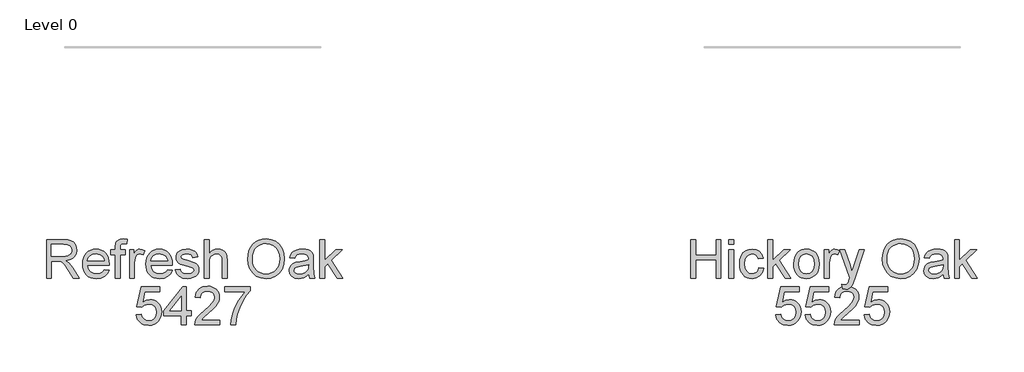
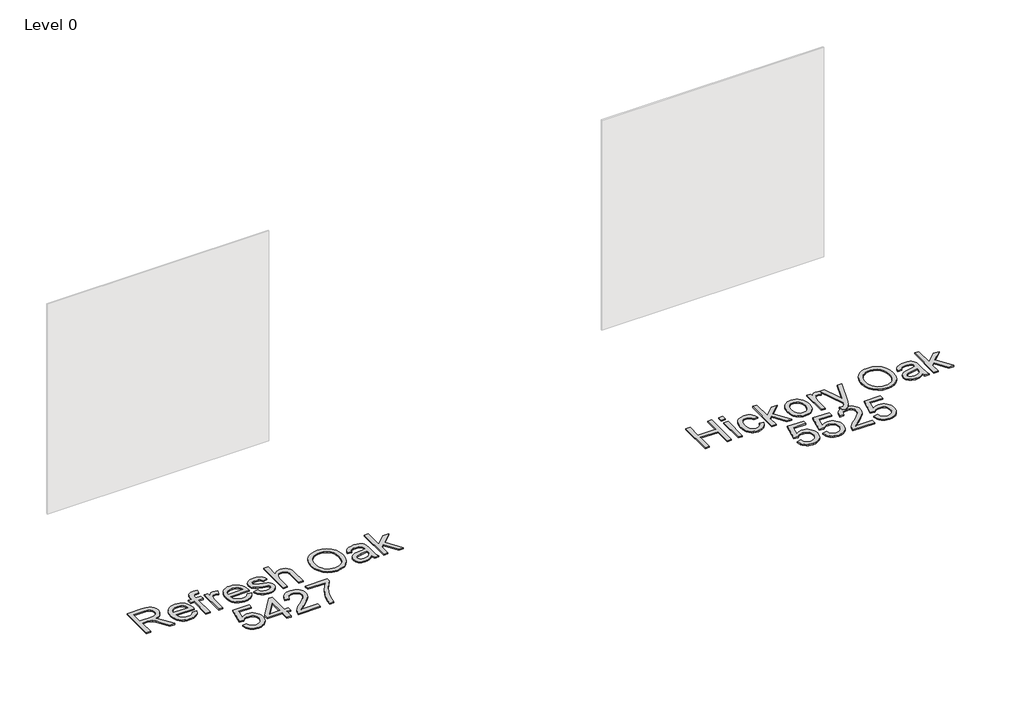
# One storey, part 9 of 16: 2 proxies.
"""IFC4 building model written with IfcOpenShell, lengths in millimetres."""

from ifc_helpers import new_model, si_unit, origin, origin_with_axes, place, context, project, spatial, polyline, outline, extrude, element, save

model = new_model("IFC4")

# Units and contexts
model_context = context("Model", 3, world=origin())
ifc_project = project(units=[si_unit("LENGTHUNIT", "METRE", prefix="MILLI")], contexts=[model_context])

# Site, building, storey
site = spatial("IfcSite", under=ifc_project)
building = spatial("IfcBuilding", under=site)
storey = spatial("IfcBuildingStorey", under=building, Name="Level 0", Elevation=0.0)

# Proxies
placement = place(None, origin())
element("IfcBuildingElementProxy", 1, Name="300mm Arial", ObjectType="300mm Arial", at=placement, inside=storey, context=model_context, shape_type="SweptSolid", body=[
    extrude(outline(polyline([(-594.9182141, -27022.860494), (-594.9182141, -26721.4915635), (-465.0558698, -26721.4915635), (-430.1530655, -26723.5241116), (-404.7600108, -26729.6217556), (-386.2003641, -26740.8789447), (-371.797784, -26758.3901276), (-362.5547489, -26780.1043624), (-359.4737372, -26803.9707069), (-364.5780999, -26833.6587839), (-379.8911879, -26858.2700893), (-391.4909671, -26868.2994722), (-405.8728538, -26876.3147012), (-442.9829501, -26886.3026974), (-421.572218, -26902.4159288), (-391.0380124, -26941.1906911), (-340.7853318, -27022.860494), (-384.5632893, -27022.860494), (-423.7795099, -26960.3941312), (-452.1064236, -26919.0441949), (-472.0088395, -26899.509661), (-489.9246927, -26892.3359621), (-511.7768832, -26891.0115869), (-557.2470978, -26891.0115869), (-557.2470978, -27022.860494), (-594.9182141, -27022.860494)]), holes=[polyline([(-557.2470978, -26853.3404706), (-472.9285445, -26853.3404706), (-448.7127122, -26852.0068984), (-429.9231393, -26848.0061817), (-415.7780766, -26841.0716061), (-405.4957748, -26830.9364571), (-399.2325838, -26818.6767896), (-397.1448535, -26805.3686584), (-401.1271761, -26786.9929528), (-413.0741439, -26772.1857025), (-433.6295504, -26762.4184355), (-463.437189, -26759.1626798), (-557.2470978, -26759.1626798), (-557.2470978, -26853.3404706)])]), origin_with_axes(), (0.0, 0.0, 1.0), 10.0),
    extrude(outline(polyline([(-143.3062768, -26956.9360404), (-106.3709245, -26961.64493), (-119.6790557, -26989.4752029), (-140.9150439, -27010.2789297), (-169.6006424, -27023.2467701), (-205.2576048, -27027.5693835), (-228.6319071, -27025.7046817), (-249.4586265, -27020.1105761), (-267.7377632, -27010.7870668), (-283.469317, -26997.7341537), (-296.1198591, -26981.3151204), (-305.1559606, -26961.8932503), (-310.5776215, -26939.4685435), (-312.3848418, -26914.0409998), (-310.5592274, -26887.7512327), (-305.0823842, -26864.5792656), (-295.9543122, -26844.5250983), (-283.1750114, -26827.5887309), (-267.4848443, -26814.133447), (-249.6241734, -26804.5225298), (-229.5929988, -26798.7559796), (-207.3913204, -26796.8337961), (-185.9047126, -26798.751381), (-166.4736455, -26804.5041357), (-149.098119, -26814.0920602), (-133.7781332, -26827.5151545), (-121.2724446, -26844.4147337), (-112.3398099, -26864.4321128), (-106.9802291, -26887.5672917), (-105.1937021, -26913.8202706), (-105.4144313, -26923.9738137), (-274.7137255, -26923.9738137), (-268.1930171, -26952.1719686), (-253.045476, -26972.902119), (-231.1840884, -26985.6492302), (-204.5218408, -26989.8982672), (-184.4722721, -26987.9300985), (-167.5864885, -26982.0255925), (-153.8644901, -26971.8168672), (-143.3062768, -26956.9360404)]), holes=[polyline([(-274.7137255, -26886.3026974), (-142.8648184, -26886.3026974), (-147.9599841, -26866.4002814), (-157.9479802, -26852.1632482), (-179.9105353, -26838.9194964), (-207.5384732, -26834.5049125), (-232.9315279, -26838.0273826), (-253.9283928, -26848.5947929), (-268.5241109, -26865.0667092), (-274.7137255, -26886.3026974)])]), origin_with_axes(), (0.0, 0.0, 1.0), 10.0),
    extrude(outline(polyline([(-58.1048067, -27022.860494), (-58.1048067, -26839.213802), (-91.0670335, -26839.213802), (-91.0670335, -26801.5426857), (-58.1048067, -26801.5426857), (-58.1048067, -26779.2490368), (-54.1316812, -26747.8319144), (-46.5533121, -26735.3055325), (-34.8546646, -26725.3911127), (-18.4839159, -26718.9347837), (3.1107573, -26716.782674), (37.4709356, -26720.9029523), (31.9527057, -26756.2196239), (10.247668, -26754.4537903), (-4.0721387, -26756.0172888), (-13.4807207, -26760.7077842), (-18.695448, -26769.6657108), (-20.4336904, -26784.0315027), (-20.4336904, -26801.5426857), (21.9463154, -26801.5426857), (21.9463154, -26839.213802), (-20.4336904, -26839.213802), (-20.4336904, -27022.860494), (-58.1048067, -27022.860494)])), origin_with_axes(), (0.0, 0.0, 1.0), 10.0),
    extrude(outline(polyline([(54.9085422, -27022.860494), (54.9085422, -26801.5426857), (87.8707689, -26801.5426857), (87.8707689, -26834.2841833), (100.047663, -26815.3014723), (111.2680638, -26804.1178596), (122.5252529, -26798.654812), (134.8125115, -26796.8337961), (153.5744933, -26799.7400639), (172.6307806, -26808.4588672), (160.0492164, -26842.2304343), (146.8054646, -26836.4362929), (133.5617127, -26834.5049125), (122.3137207, -26836.3627165), (112.2613452, -26841.9361288), (104.1403502, -26850.8020848), (98.6864996, -26862.5375205), (94.1063688, -26883.5803706), (92.5796585, -26906.5362071), (92.5796585, -27022.860494), (54.9085422, -27022.860494)])), origin_with_axes(), (0.0, 0.0, 1.0), 10.0),
    extrude(outline(polyline([(351.1271247, -26956.9360404), (388.062477, -26961.64493), (374.7543458, -26989.4752029), (353.5183577, -27010.2789297), (324.8327591, -27023.2467701), (289.1757967, -27027.5693835), (265.8014944, -27025.7046817), (244.974775, -27020.1105761), (226.6956383, -27010.7870668), (210.9640845, -26997.7341537), (198.3135424, -26981.3151204), (189.2774409, -26961.8932503), (183.85578, -26939.4685435), (182.0485597, -26914.0409998), (183.8741741, -26887.7512327), (189.3510173, -26864.5792656), (198.4790893, -26844.5250983), (211.2583901, -26827.5887309), (226.9485572, -26814.133447), (244.8092281, -26804.5225298), (264.8404027, -26798.7559796), (287.0420811, -26796.8337961), (308.5286889, -26798.751381), (327.959756, -26804.5041357), (345.3352825, -26814.0920602), (360.6552684, -26827.5151545), (373.1609569, -26844.4147337), (382.0935916, -26864.4321128), (387.4531725, -26887.5672917), (389.2396994, -26913.8202706), (389.0189702, -26923.9738137), (219.719676, -26923.9738137), (226.2403844, -26952.1719686), (241.3879255, -26972.902119), (263.2493131, -26985.6492302), (289.9115607, -26989.8982672), (309.9611294, -26987.9300985), (326.846913, -26982.0255925), (340.5689114, -26971.8168672), (351.1271247, -26956.9360404)]), holes=[polyline([(219.719676, -26886.3026974), (351.5685831, -26886.3026974), (346.4734175, -26866.4002814), (336.4854213, -26852.1632482), (314.5228662, -26838.9194964), (286.8949283, -26834.5049125), (261.5018736, -26838.0273826), (240.5050087, -26848.5947929), (225.9092906, -26865.0667092), (219.719676, -26886.3026974)])]), origin_with_axes(), (0.0, 0.0, 1.0), 10.0),
    extrude(outline(polyline([(412.7841471, -26956.9360404), (450.4552634, -26952.2271509), (456.3965576, -26968.3403823), (467.89287, -26980.1861825), (485.0177768, -26987.470246), (507.8448546, -26989.8982672), (530.3960209, -26987.6725811), (546.2517349, -26980.9955229), (555.6327258, -26971.3202265), (558.7597228, -26960.0998256), (555.6143317, -26950.4981055), (546.1781585, -26943.1772538), (507.4033962, -26932.4350996), (450.6759926, -26914.0042116), (436.3193977, -26904.7427824), (425.9175343, -26892.4831149), (419.599161, -26878.0069584), (417.4930366, -26862.0960621), (419.1852938, -26847.5003439), (424.2620653, -26834.0266659), (432.2634987, -26822.2084568), (442.7297415, -26812.5791455), (466.6788594, -26801.4323211), (499.0892632, -26796.8337961), (523.6085981, -26798.6824032), (544.9273598, -26804.2282242), (562.0706607, -26812.9286334), (574.0636138, -26824.2410048), (582.0098649, -26839.0022698), (587.01306, -26858.0493601), (549.3419437, -26862.7582497), (544.5870689, -26850.9032524), (535.1784869, -26841.972917), (521.0242271, -26836.3719136), (502.0323191, -26834.5049125), (480.4008578, -26836.2891401), (465.9798836, -26841.6418232), (457.8680856, -26849.3673451), (455.1641529, -26858.2700893), (459.6523133, -26869.2329728), (473.7054055, -26877.5471059), (506.1525975, -26885.5669334), (561.4452613, -26903.2988455), (576.0501765, -26911.7785255), (587.1234246, -26923.3852025), (594.1039855, -26938.1556646), (596.4308391, -26956.1267001), (593.6993153, -26974.7047408), (585.5047438, -26992.1791356), (572.1598244, -27007.1795239), (553.9772568, -27018.3355454), (532.0147017, -27025.260924), (507.3298198, -27027.5693835), (469.3460038, -27023.1180114), (441.6260955, -27009.763895), (423.1216311, -26987.654187), (412.7841471, -26956.9360404)])), origin_with_axes(), (0.0, 0.0, 1.0), 10.0),
    extrude(outline(polyline([(638.8108449, -27022.860494), (638.8108449, -26721.4915635), (676.4819612, -26721.4915635), (676.4819612, -26832.2976205), (690.3189228, -26816.7821973), (705.8573385, -26805.6997522), (723.0972085, -26799.0502852), (742.0385328, -26796.8337961), (764.7920342, -26799.2526203), (784.3449622, -26806.5090926), (799.7408237, -26818.0329961), (810.0231255, -26833.2541137), (815.8172669, -26854.1682051), (817.7486474, -26882.7710302), (817.7486474, -27022.860494), (780.0775311, -27022.860494), (780.0775311, -26886.6705794), (777.0792928, -26863.0893435), (768.084578, -26846.9393239), (753.5900274, -26837.6135153), (734.0922817, -26834.5049125), (718.1721883, -26836.6018398), (703.2269823, -26842.8926219), (690.8477531, -26852.7702535), (682.6255905, -26865.6277292), (678.0178686, -26882.7158479), (676.4819612, -26905.2854083), (676.4819612, -27022.860494), (638.8108449, -27022.860494)])), origin_with_axes(), (0.0, 0.0, 1.0), 10.0),
    extrude(outline(polyline([(977.8508917, -26876.1491543), (980.3616863, -26840.8002931), (987.8940701, -26809.5073309), (1000.4480432, -26782.2702677), (1018.0236055, -26759.0891034), (1039.5676949, -26740.5800406), (1064.027249, -26727.3592814), (1091.402268, -26719.4268258), (1121.6927518, -26716.782674), (1161.2216722, -26721.7490809), (1196.6671024, -26736.6483017), (1226.097662, -26760.4318727), (1247.5819705, -26792.0513302), (1260.7153578, -26829.9799639), (1265.0931535, -26872.6910636), (1260.4854315, -26915.9723803), (1246.6622656, -26954.4344429), (1224.3870107, -26986.1090827), (1194.4230222, -27009.028131), (1159.2810946, -27022.9340704), (1121.4720226, -27027.5693835), (1081.3360969, -27022.4466267), (1045.6883316, -27007.0783564), (1016.3313484, -26982.853327), (995.067769, -26951.1602931), (982.155111, -26914.6939903), (977.8508917, -26876.1491543)]), holes=[polyline([(1015.522008, -26876.5170363), (1017.4051039, -26901.4916252), (1023.0543918, -26923.661114), (1032.4698716, -26943.0255025), (1045.6515434, -26959.5847908), (1061.6751035, -26972.8469367), (1079.6162486, -26982.3198981), (1099.4749785, -26988.0036749), (1121.2512934, -26989.8982672), (1143.4000888, -26987.9852808), (1163.4933435, -26982.2463217), (1181.5310576, -26972.6813898), (1197.513231, -26959.2904852), (1210.5983337, -26942.381709), (1219.9448357, -26922.2631624), (1225.5527368, -26898.9348454), (1227.4220372, -26872.396758), (1224.2214638, -26839.0482551), (1214.6197438, -26810.2247008), (1198.8651973, -26786.6526619), (1177.2061449, -26769.0587055), (1151.0773262, -26758.1050191), (1121.913481, -26754.4537903), (1100.8936235, -26756.2127261), (1081.3912792, -26761.4895335), (1063.4064482, -26770.2842124), (1046.9391304, -26782.5967629), (1033.1941393, -26799.0203948), (1023.3762886, -26820.1483176), (1017.4855781, -26845.9805314), (1015.522008, -26876.5170363)])]), origin_with_axes(), (0.0, 0.0, 1.0), 10.0),
    extrude(outline(polyline([(1453.448735, -26994.6071568), (1435.4501084, -27010.0398064), (1416.9180529, -27020.1381672), (1397.4295042, -27025.7115794), (1376.561398, -27027.5693835), (1345.0798963, -27023.0996173), (1321.8573454, -27009.6903186), (1307.5375387, -26989.3280501), (1302.7642698, -26963.9993748), (1304.5668916, -26948.3827841), (1309.9747569, -26934.2009331), (1318.3164812, -26922.0608273), (1328.9206797, -26912.5694718), (1355.2978187, -26900.2086368), (1387.8921635, -26894.5432541), (1426.4094084, -26888.5835657), (1453.2280058, -26881.5938078), (1453.448735, -26873.2060983), (1450.855167, -26856.3938912), (1443.0744628, -26845.3942195), (1425.6736444, -26837.2272392), (1401.4302209, -26834.5049125), (1378.9894192, -26836.3167313), (1363.3176462, -26841.7521878), (1352.6306743, -26851.8045633), (1345.1442757, -26867.4671392), (1307.4731594, -26862.7582497), (1314.0122618, -26842.156858), (1323.7703317, -26825.9700502), (1337.6578771, -26813.590821), (1356.5854057, -26804.4121652), (1379.7343803, -26798.7283884), (1406.2862633, -26796.8337961), (1431.7528944, -26798.5076592), (1451.9404189, -26803.5292485), (1467.1615364, -26811.0800264), (1477.7289467, -26820.3414556), (1484.7370987, -26831.7917827), (1489.2804414, -26845.9092543), (1491.1198513, -26878.8714811), (1491.1198513, -26925.7396473), (1493.0328377, -26991.1858542), (1500.5376304, -27022.860494), (1462.8665141, -27022.860494), (1453.448735, -26994.6071568)]), holes=[polyline([(1453.448735, -26919.2649241), (1392.6746294, -26930.8164188), (1360.2642257, -26936.9232599), (1345.5857341, -26946.8560738), (1340.4353861, -26961.3506244), (1343.2404863, -26972.5526311), (1351.655787, -26981.7312869), (1365.497347, -26987.8565221), (1384.5812255, -26989.8982672), (1404.8147353, -26987.64499), (1422.6938002, -26980.8851583), (1437.1883509, -26970.9247533), (1447.2683175, -26959.069756), (1451.7380838, -26946.8560738), (1453.2280058, -26929.933502), (1453.448735, -26919.2649241)])]), origin_with_axes(), (0.0, 0.0, 1.0), 10.0),
    extrude(outline(polyline([(1542.9176363, -27022.860494), (1542.9176363, -26721.4915635), (1580.5887526, -26721.4915635), (1580.5887526, -26883.4332178), (1665.0544587, -26801.5426857), (1717.1465492, -26801.5426857), (1631.6507735, -26884.4632874), (1721.8554387, -27022.860494), (1677.8567521, -27022.860494), (1604.6482351, -26910.6564855), (1580.5887526, -26933.9802039), (1580.5887526, -27022.860494), (1542.9176363, -27022.860494)])), origin_with_axes(), (0.0, 0.0, 1.0), 10.0),
    extrude(outline(polyline([(106.7063271, -27308.7338254), (144.3774434, -27304.0249358), (151.2936249, -27326.6404815), (163.3601544, -27342.8364863), (180.5218494, -27352.5761621), (202.7235278, -27355.8227207), (229.7260663, -27351.3069693), (249.959576, -27337.7597148), (262.5963226, -27316.7444558), (266.8085714, -27289.8246908), (262.863037, -27264.4776213), (251.0264338, -27245.0902402), (231.2067913, -27232.7845875), (203.312139, -27228.6827032), (185.0376009, -27230.3197781), (170.2395477, -27235.2310027), (149.0863329, -27252.2271509), (111.4152166, -27247.5182614), (144.3774434, -27092.1249066), (290.3530191, -27092.1249066), (290.3530191, -27129.7960229), (174.8380726, -27129.7960229), (158.7248412, -27212.790201), (185.6354092, -27196.4562404), (213.8335641, -27191.0115869), (232.1793793, -27192.6992456), (249.030674, -27197.7622215), (264.387448, -27206.2005148), (278.2497014, -27218.0141254), (289.7253204, -27232.4810848), (297.9221911, -27248.8794248), (302.8403136, -27267.2091452), (304.4796877, -27287.470246), (298.5751817, -27325.1413624), (291.1945492, -27341.9351754), (280.8616636, -27357.3678251), (265.2082847, -27373.1729553), (246.9429437, -27384.4623341), (226.0656404, -27391.2359613), (202.576375, -27393.4938371), (165.5766434, -27387.6904986), (149.8979726, -27380.4363255), (136.1000985, -27370.2804832), (124.619881, -27357.7288093), (115.8941799, -27343.2871418), (106.7063271, -27308.7338254)])), origin_with_axes(), (0.0, 0.0, 1.0), 10.0),
    extrude(outline(polyline([(459.8730425, -27388.7849475), (459.8730425, -27318.1516044), (323.3152459, -27318.1516044), (323.3152459, -27280.4804881), (469.2908215, -27092.1249066), (497.5441588, -27092.1249066), (497.5441588, -27280.4804881), (535.2152751, -27280.4804881), (535.2152751, -27318.1516044), (497.5441588, -27318.1516044), (497.5441588, -27388.7849475), (459.8730425, -27388.7849475)]), holes=[polyline([(459.8730425, -27280.4804881), (459.8730425, -27164.0826249), (369.6683772, -27280.4804881), (459.8730425, -27280.4804881)])]), origin_with_axes(), (0.0, 0.0, 1.0), 10.0),
    extrude(outline(polyline([(761.2419729, -27351.1138312), (761.2419729, -27388.7849475), (563.4686123, -27388.7849475), (567.5153143, -27362.8124787), (576.8043346, -27342.5145896), (590.3975744, -27322.8237058), (610.060867, -27302.213117), (637.5600461, -27279.156113), (678.2110066, -27243.0484951), (702.6015829, -27216.3954446), (714.796871, -27194.7639833), (718.8619671, -27173.7211331), (715.0267973, -27154.8579838), (703.5212879, -27139.1770138), (685.835361, -27128.6096035), (663.4589386, -27125.0871334), (639.9604762, -27128.52683), (621.7043321, -27138.84592), (609.9229112, -27155.2350629), (605.8486182, -27176.8849183), (568.1775018, -27172.1760288), (577.3101724, -27135.7373171), (585.856531, -27121.2013798), (597.0562385, -27109.1210548), (610.6517775, -27099.6251008), (626.3856305, -27092.8422765), (664.268279, -27087.4160171), (684.4581027, -27088.9243332), (702.4268389, -27093.4492818), (718.1744876, -27100.9908627), (731.7010487, -27111.549076), (742.5650639, -27124.3421723), (750.3250747, -27138.5884026), (754.9810812, -27154.2877667), (756.5330834, -27171.4402648), (754.8592203, -27189.4572855), (749.8376311, -27207.1616065), (740.9256897, -27225.1694302), (727.5807704, -27244.0969588), (706.307994, -27266.6941104), (673.6124817, -27295.7108027), (630.2759826, -27331.9471793), (613.2798345, -27351.1138312), (761.2419729, -27351.1138312)])), origin_with_axes(), (0.0, 0.0, 1.0), 10.0),
    extrude(outline(polyline([(798.9130892, -27129.7960229), (798.9130892, -27092.1249066), (996.6864498, -27092.1249066), (996.6864498, -27122.5855358), (968.4974919, -27158.2608923), (940.5844456, -27203.6299393), (915.963943, -27254.5540045), (897.6526167, -27306.8944154), (888.676296, -27346.0554538), (883.6731009, -27388.7849475), (846.0019846, -27388.7849475), (850.0762777, -27349.9550029), (860.9747818, -27303.8042066), (878.4031913, -27254.8850983), (902.0672007, -27207.7502177), (929.6951385, -27165.1402856), (959.0153335, -27129.7960229), (798.9130892, -27129.7960229)])), origin_with_axes(), (0.0, 0.0, 1.0), 10.0),
])
element("IfcBuildingElementProxy", 2, Name="300mm Arial", ObjectType="300mm Arial", at=placement, inside=storey, context=model_context, shape_type="SweptSolid", body=[
    extrude(outline(polyline([(4442.7529022, -27022.860494), (4442.7529022, -26721.4915635), (4480.4240185, -26721.4915635), (4480.4240185, -26843.9226915), (4640.5262628, -26843.9226915), (4640.5262628, -26721.4915635), (4678.1973791, -26721.4915635), (4678.1973791, -27022.860494), (4640.5262628, -27022.860494), (4640.5262628, -26881.5938078), (4480.4240185, -26881.5938078), (4480.4240185, -27022.860494), (4442.7529022, -27022.860494)])), origin_with_axes(), (0.0, 0.0, 1.0), 10.0),
    extrude(outline(polyline([(4739.4129431, -27022.860494), (4739.4129431, -26801.5426857), (4777.0840594, -26801.5426857), (4777.0840594, -27022.860494), (4739.4129431, -27022.860494)])), origin_with_axes(), (0.0, 0.0, 1.0), 10.0),
    extrude(outline(polyline([(4739.4129431, -26759.1626798), (4739.4129431, -26721.4915635), (4777.0840594, -26721.4915635), (4777.0840594, -26759.1626798), (4739.4129431, -26759.1626798)])), origin_with_axes(), (0.0, 0.0, 1.0), 10.0),
    extrude(outline(polyline([(4974.85742, -26942.8093718), (5012.5285363, -26947.5182614), (5002.0255054, -26981.0231141), (4982.2886363, -27006.3425924), (4955.1757333, -27022.2626857), (4922.5446003, -27027.5693835), (4901.4166775, -27025.7184772), (4882.473054, -27020.1657584), (4865.7137298, -27010.9112269), (4851.138705, -26997.9548829), (4839.3411893, -26981.5404481), (4830.9143924, -26961.9116444), (4825.8583142, -26939.0684718), (4824.1729548, -26913.0109302), (4827.0516314, -26879.4876834), (4835.6876612, -26850.4342028), (4850.2190001, -26826.9725286), (4870.7836036, -26810.2247008), (4895.385712, -26800.1815223), (4922.0295655, -26796.8337961), (4953.8605551, -26801.4323211), (4979.3087922, -26815.2278959), (4997.5649362, -26837.4847566), (5007.8196468, -26867.4671392), (4970.1485305, -26872.1760288), (4963.3151224, -26855.7409006), (4952.6741357, -26843.9594797), (4938.8141815, -26836.8685543), (4922.3238711, -26834.5049125), (4897.9792801, -26839.1586197), (4878.6562783, -26853.1197414), (4866.0471229, -26877.1424357), (4861.8440711, -26911.9808606), (4865.9551524, -26947.2883351), (4878.2883963, -26971.3938029), (4897.2619102, -26985.2721511), (4921.2938015, -26989.8982672), (4940.8007443, -26987.0103936), (4956.7944141, -26978.3467726), (4968.4286822, -26963.6866751), (4974.85742, -26942.8093718)])), origin_with_axes(), (0.0, 0.0, 1.0), 10.0),
    extrude(outline(polyline([(5045.4907631, -27022.860494), (5045.4907631, -26721.4915635), (5083.1618794, -26721.4915635), (5083.1618794, -26883.4332178), (5167.6275855, -26801.5426857), (5219.719676, -26801.5426857), (5134.2239003, -26884.4632874), (5224.4285656, -27022.860494), (5180.4298789, -27022.860494), (5107.2213619, -26910.6564855), (5083.1618794, -26933.9802039), (5083.1618794, -27022.860494), (5045.4907631, -27022.860494)])), origin_with_axes(), (0.0, 0.0, 1.0), 10.0),
    extrude(outline(polyline([(5247.9730132, -26912.2015898), (5250.0101598, -26883.5389839), (5256.1215994, -26858.8403064), (5266.3073322, -26838.1055575), (5280.567358, -26821.334737), (5294.9239529, -26810.6155754), (5310.7704698, -26802.9590314), (5328.1069088, -26798.3651049), (5346.9332699, -26796.8337961), (5367.7163034, -26798.698498), (5386.5081756, -26804.2926036), (5403.3088864, -26813.6161129), (5418.118436, -26826.669026), (5430.2056588, -26843.0098843), (5438.8393894, -26862.1972296), (5444.0196277, -26884.2310619), (5445.7463739, -26909.1113811), (5442.6929533, -26947.1687735), (5433.5326916, -26976.1394806), (5418.5323033, -26997.8353213), (5397.9585027, -27014.0681143), (5373.5219411, -27024.1940662), (5346.9332699, -27027.5693835), (5325.8467338, -27025.7115794), (5306.8801177, -27020.1381672), (5290.0334216, -27010.8491468), (5275.3066455, -26997.8445183), (5263.3481814, -26981.3450108), (5254.8064213, -26961.5713536), (5249.6813653, -26938.5235466), (5247.9730132, -26912.2015898)]), holes=[polyline([(5285.6441295, -26912.1280134), (5290.0035312, -26946.2214773), (5303.0817361, -26970.5108861), (5322.7634229, -26985.0514219), (5346.9332699, -26989.8982672), (5370.9927524, -26985.0238308), (5390.637651, -26970.4005215), (5403.7158559, -26945.789216), (5408.0752575, -26910.950791), (5403.6882648, -26877.8506085), (5390.5272864, -26853.8922936), (5370.8547967, -26839.3517577), (5346.9332699, -26834.5049125), (5322.7634229, -26839.3333636), (5303.0817361, -26853.8187172), (5290.0035312, -26878.0529436), (5285.6441295, -26912.1280134)])]), origin_with_axes(), (0.0, 0.0, 1.0), 10.0),
    extrude(outline(polyline([(5488.1263797, -27022.860494), (5488.1263797, -26801.5426857), (5521.0886065, -26801.5426857), (5521.0886065, -26834.2841833), (5533.2655005, -26815.3014723), (5544.4859014, -26804.1178596), (5555.7430904, -26798.654812), (5568.030349, -26796.8337961), (5586.7923308, -26799.7400639), (5605.8486182, -26808.4588672), (5593.2670539, -26842.2304343), (5580.0233021, -26836.4362929), (5566.7795503, -26834.5049125), (5555.5315583, -26836.3627165), (5545.4791827, -26841.9361288), (5537.3581877, -26850.8020848), (5531.9043371, -26862.5375205), (5527.3242063, -26883.5803706), (5525.797496, -26906.5362071), (5525.797496, -27022.860494), (5488.1263797, -27022.860494)])), origin_with_axes(), (0.0, 0.0, 1.0), 10.0),
    extrude(outline(polyline([(5629.3930658, -27107.6205057), (5624.6841763, -27071.3473409), (5643.8140401, -27074.6582789), (5661.693105, -27070.5012124), (5672.6559885, -27058.9129295), (5682.9566843, -27031.1746271), (5685.8997403, -27022.0511536), (5605.8486182, -26801.5426857), (5645.5798736, -26801.5426857), (5688.0334559, -26924.4152721), (5702.8223121, -26973.5643066), (5717.6111683, -26930.1542312), (5761.2419729, -26801.5426857), (5800.6789228, -26801.5426857), (5723.644433, -27028.1579947), (5703.6316525, -27077.3070293), (5693.3861389, -27092.9971964), (5681.779462, -27103.8681093), (5668.2965868, -27110.2140737), (5652.4224787, -27112.3293952), (5629.3930658, -27107.6205057)])), origin_with_axes(), (0.0, 0.0, 1.0), 10.0),
    extrude(outline(polyline([(5940.1797754, -26876.1491543), (5942.69057, -26840.8002931), (5950.2229538, -26809.5073309), (5962.7769269, -26782.2702677), (5980.3524892, -26759.0891034), (6001.8965786, -26740.5800406), (6026.3561327, -26727.3592814), (6053.7311517, -26719.4268258), (6084.0216355, -26716.782674), (6123.5505559, -26721.7490809), (6158.9959861, -26736.6483017), (6188.4265457, -26760.4318727), (6209.9108542, -26792.0513302), (6223.0442415, -26829.9799639), (6227.4220372, -26872.6910636), (6222.8143152, -26915.9723803), (6208.9911492, -26954.4344429), (6186.7158944, -26986.1090827), (6156.7519059, -27009.028131), (6121.6099783, -27022.9340704), (6083.8009063, -27027.5693835), (6043.6649806, -27022.4466267), (6008.0172153, -27007.0783564), (5978.6602321, -26982.853327), (5957.3966527, -26951.1602931), (5944.4839947, -26914.6939903), (5940.1797754, -26876.1491543)]), holes=[polyline([(5977.8508917, -26876.5170363), (5979.7339876, -26901.4916252), (5985.3832755, -26923.661114), (5994.7987553, -26943.0255025), (6007.9804271, -26959.5847908), (6024.0039872, -26972.8469367), (6041.9451323, -26982.3198981), (6061.8038622, -26988.0036749), (6083.5801771, -26989.8982672), (6105.7289725, -26987.9852808), (6125.8222272, -26982.2463217), (6143.8599413, -26972.6813898), (6159.8421147, -26959.2904852), (6172.9272174, -26942.381709), (6182.2737193, -26922.2631624), (6187.8816205, -26898.9348454), (6189.7509209, -26872.396758), (6186.5503475, -26839.0482551), (6176.9486275, -26810.2247008), (6161.194081, -26786.6526619), (6139.5350286, -26769.0587055), (6113.4062098, -26758.1050191), (6084.2423647, -26754.4537903), (6063.2225072, -26756.2127261), (6043.7201629, -26761.4895335), (6025.7353319, -26770.2842124), (6009.2680141, -26782.5967629), (5995.523023, -26799.0203948), (5985.7051723, -26820.1483176), (5979.8144618, -26845.9805314), (5977.8508917, -26876.5170363)])]), origin_with_axes(), (0.0, 0.0, 1.0), 10.0),
    extrude(outline(polyline([(6415.7776187, -26994.6071568), (6397.7789921, -27010.0398064), (6379.2469366, -27020.1381672), (6359.7583879, -27025.7115794), (6338.8902817, -27027.5693835), (6307.40878, -27023.0996173), (6284.1862291, -27009.6903186), (6269.8664224, -26989.3280501), (6265.0931535, -26963.9993748), (6266.8957753, -26948.3827841), (6272.3036406, -26934.2009331), (6280.6453649, -26922.0608273), (6291.2495634, -26912.5694718), (6317.6267024, -26900.2086368), (6350.2210472, -26894.5432541), (6388.7382921, -26888.5835657), (6415.5568895, -26881.5938078), (6415.7776187, -26873.2060983), (6413.1840507, -26856.3938912), (6405.4033465, -26845.3942195), (6388.0025281, -26837.2272392), (6363.7591046, -26834.5049125), (6341.3183029, -26836.3167313), (6325.6465299, -26841.7521878), (6314.959558, -26851.8045633), (6307.4731594, -26867.4671392), (6269.802043, -26862.7582497), (6276.3411455, -26842.156858), (6286.0992154, -26825.9700502), (6299.9867608, -26813.590821), (6318.9142894, -26804.4121652), (6342.0632639, -26798.7283884), (6368.615147, -26796.8337961), (6394.0817781, -26798.5076592), (6414.2693026, -26803.5292485), (6429.4904201, -26811.0800264), (6440.0578304, -26820.3414556), (6447.0659824, -26831.7917827), (6451.6093251, -26845.9092543), (6453.448735, -26878.8714811), (6453.448735, -26925.7396473), (6455.3617214, -26991.1858542), (6462.8665141, -27022.860494), (6425.1953978, -27022.860494), (6415.7776187, -26994.6071568)]), holes=[polyline([(6415.7776187, -26919.2649241), (6355.0035131, -26930.8164188), (6322.5931094, -26936.9232599), (6307.9146177, -26946.8560738), (6302.7642698, -26961.3506244), (6305.56937, -26972.5526311), (6313.9846707, -26981.7312869), (6327.8262307, -26987.8565221), (6346.9101092, -26989.8982672), (6367.143619, -26987.64499), (6385.0226839, -26980.8851583), (6399.5172345, -26970.9247533), (6409.5972012, -26959.069756), (6414.0669675, -26946.8560738), (6415.5568895, -26929.933502), (6415.7776187, -26919.2649241)])]), origin_with_axes(), (0.0, 0.0, 1.0), 10.0),
    extrude(outline(polyline([(6505.24652, -27022.860494), (6505.24652, -26721.4915635), (6542.9176363, -26721.4915635), (6542.9176363, -26883.4332178), (6627.3833424, -26801.5426857), (6679.4754329, -26801.5426857), (6593.9796572, -26884.4632874), (6684.1843224, -27022.860494), (6640.1856358, -27022.860494), (6566.9771188, -26910.6564855), (6542.9176363, -26933.9802039), (6542.9176363, -27022.860494), (6505.24652, -27022.860494)])), origin_with_axes(), (0.0, 0.0, 1.0), 10.0),
    extrude(outline(polyline([(5106.7063271, -27308.7338254), (5144.3774434, -27304.0249358), (5151.2936249, -27326.6404815), (5163.3601544, -27342.8364863), (5180.5218494, -27352.5761621), (5202.7235278, -27355.8227207), (5229.7260663, -27351.3069693), (5249.959576, -27337.7597148), (5262.5963226, -27316.7444558), (5266.8085714, -27289.8246908), (5262.863037, -27264.4776213), (5251.0264338, -27245.0902402), (5231.2067913, -27232.7845875), (5203.312139, -27228.6827032), (5185.0376009, -27230.3197781), (5170.2395477, -27235.2310027), (5149.0863329, -27252.2271509), (5111.4152166, -27247.5182614), (5144.3774434, -27092.1249066), (5290.3530191, -27092.1249066), (5290.3530191, -27129.7960229), (5174.8380726, -27129.7960229), (5158.7248412, -27212.790201), (5185.6354092, -27196.4562404), (5213.8335641, -27191.0115869), (5232.1793793, -27192.6992456), (5249.030674, -27197.7622215), (5264.387448, -27206.2005148), (5278.2497014, -27218.0141254), (5289.7253204, -27232.4810848), (5297.9221911, -27248.8794248), (5302.8403136, -27267.2091452), (5304.4796877, -27287.470246), (5298.5751817, -27325.1413624), (5291.1945492, -27341.9351754), (5280.8616636, -27357.3678251), (5265.2082847, -27373.1729553), (5246.9429437, -27384.4623341), (5226.0656404, -27391.2359613), (5202.576375, -27393.4938371), (5165.5766434, -27387.6904986), (5149.8979726, -27380.4363255), (5136.1000985, -27370.2804832), (5124.619881, -27357.7288093), (5115.8941799, -27343.2871418), (5106.7063271, -27308.7338254)])), origin_with_axes(), (0.0, 0.0, 1.0), 10.0),
    extrude(outline(polyline([(5337.4419145, -27308.7338254), (5375.1130308, -27304.0249358), (5382.0292123, -27326.6404815), (5394.0957417, -27342.8364863), (5411.2574368, -27352.5761621), (5433.4591152, -27355.8227207), (5460.4616537, -27351.3069693), (5480.6951634, -27337.7597148), (5493.3319099, -27316.7444558), (5497.5441588, -27289.8246908), (5493.5986244, -27264.4776213), (5481.7620212, -27245.0902402), (5461.9423787, -27232.7845875), (5434.0477264, -27228.6827032), (5415.7731883, -27230.3197781), (5400.975135, -27235.2310027), (5379.8219203, -27252.2271509), (5342.150804, -27247.5182614), (5375.1130308, -27092.1249066), (5521.0886065, -27092.1249066), (5521.0886065, -27129.7960229), (5405.57366, -27129.7960229), (5389.4604286, -27212.790201), (5416.3709965, -27196.4562404), (5444.5691515, -27191.0115869), (5462.9149667, -27192.6992456), (5479.7662614, -27197.7622215), (5495.1230354, -27206.2005148), (5508.9852888, -27218.0141254), (5520.4609078, -27232.4810848), (5528.6577785, -27248.8794248), (5533.5759009, -27267.2091452), (5535.2152751, -27287.470246), (5529.3107691, -27325.1413624), (5521.9301365, -27341.9351754), (5511.597251, -27357.3678251), (5495.9438721, -27373.1729553), (5477.678531, -27384.4623341), (5456.8012278, -27391.2359613), (5433.3119624, -27393.4938371), (5396.3122307, -27387.6904986), (5380.63356, -27380.4363255), (5366.8356859, -27370.2804832), (5355.3554684, -27357.7288093), (5346.6297673, -27343.2871418), (5337.4419145, -27308.7338254)])), origin_with_axes(), (0.0, 0.0, 1.0), 10.0),
    extrude(outline(polyline([(5761.2419729, -27351.1138312), (5761.2419729, -27388.7849475), (5563.4686123, -27388.7849475), (5567.5153143, -27362.8124787), (5576.8043346, -27342.5145896), (5590.3975744, -27322.8237058), (5610.060867, -27302.213117), (5637.5600461, -27279.156113), (5678.2110066, -27243.0484951), (5702.6015829, -27216.3954446), (5714.796871, -27194.7639833), (5718.8619671, -27173.7211331), (5715.0267973, -27154.8579838), (5703.5212879, -27139.1770138), (5685.835361, -27128.6096035), (5663.4589386, -27125.0871334), (5639.9604762, -27128.52683), (5621.7043321, -27138.84592), (5609.9229112, -27155.2350629), (5605.8486182, -27176.8849183), (5568.1775018, -27172.1760288), (5577.3101724, -27135.7373171), (5585.856531, -27121.2013798), (5597.0562385, -27109.1210548), (5610.6517775, -27099.6251008), (5626.3856305, -27092.8422765), (5664.268279, -27087.4160171), (5684.4581027, -27088.9243332), (5702.4268389, -27093.4492818), (5718.1744876, -27100.9908627), (5731.7010487, -27111.549076), (5742.5650639, -27124.3421723), (5750.3250747, -27138.5884026), (5754.9810812, -27154.2877667), (5756.5330834, -27171.4402648), (5754.8592203, -27189.4572855), (5749.8376311, -27207.1616065), (5740.9256897, -27225.1694302), (5727.5807704, -27244.0969588), (5706.307994, -27266.6941104), (5673.6124817, -27295.7108027), (5630.2759826, -27331.9471793), (5613.2798345, -27351.1138312), (5761.2419729, -27351.1138312)])), origin_with_axes(), (0.0, 0.0, 1.0), 10.0),
    extrude(outline(polyline([(5798.9130892, -27308.7338254), (5836.5842055, -27304.0249358), (5843.500387, -27326.6404815), (5855.5669165, -27342.8364863), (5872.7286116, -27352.5761621), (5894.93029, -27355.8227207), (5921.9328284, -27351.3069693), (5942.1663381, -27337.7597148), (5954.8030847, -27316.7444558), (5959.0153335, -27289.8246908), (5955.0697991, -27264.4776213), (5943.2331959, -27245.0902402), (5923.4135534, -27232.7845875), (5895.5189012, -27228.6827032), (5877.244363, -27230.3197781), (5862.4463098, -27235.2310027), (5841.2930951, -27252.2271509), (5803.6219788, -27247.5182614), (5836.5842055, -27092.1249066), (5982.5597812, -27092.1249066), (5982.5597812, -27129.7960229), (5867.0448347, -27129.7960229), (5850.9316033, -27212.790201), (5877.8421713, -27196.4562404), (5906.0403262, -27191.0115869), (5924.3861415, -27192.6992456), (5941.2374361, -27197.7622215), (5956.5942101, -27206.2005148), (5970.4564636, -27218.0141254), (5981.9320826, -27232.4810848), (5990.1289533, -27248.8794248), (5995.0470757, -27267.2091452), (5996.6864498, -27287.470246), (5990.7819438, -27325.1413624), (5983.4013113, -27341.9351754), (5973.0684257, -27357.3678251), (5957.4150468, -27373.1729553), (5939.1497058, -27384.4623341), (5918.2724026, -27391.2359613), (5894.7831372, -27393.4938371), (5857.7834055, -27387.6904986), (5842.1047347, -27380.4363255), (5828.3068606, -27370.2804832), (5816.8266431, -27357.7288093), (5808.1009421, -27343.2871418), (5798.9130892, -27308.7338254)])), origin_with_axes(), (0.0, 0.0, 1.0), 10.0),
])

save(model, "model.ifc")
